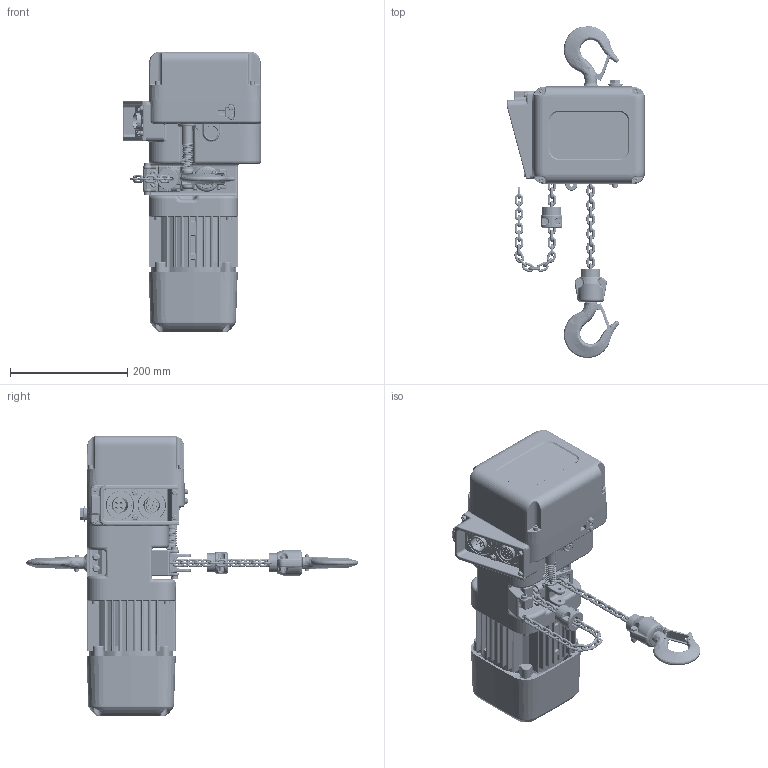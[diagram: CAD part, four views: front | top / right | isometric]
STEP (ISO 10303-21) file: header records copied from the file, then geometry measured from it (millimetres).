
FILE_DESCRIPTION (( 'STEP AP214' ), '1' );
FILE_NAME ('NER2003S.STEP', '2025-10-10T18:43:32', ( '' ), ( '' ), 'SwSTEP 2.0', 'SolidWorks 2025', '' );
FILE_SCHEMA (( 'AUTOMOTIVE_DESIGN' ));
Length unit declared in the file: millimetre
Products named in the file (46): J1BG10601212_B18.3.1M - 6 x 1.0 x 12 Hex SHCS -- 12CHX; J1NA001-20060_B18.2.4.1M - Hex nut, Style 1,  M6 x 1 --D-C; ER2BS9011; ER2BS9103; ER2BS2015; E3S111003; LCER2003NP; ER2BS9337; ER2CS9123; ER2BS9107; ES1045003; J1WS011-20060_Rectangular section spring washer BS 4464 - 16 (Type B); ER2BS9331; ES558003; ER2CS2523; NER2003S; ER2CS1002; LCER2003NP (SHAPED); E3S112003; ER2BS9053; MS561010; ER2CS1001; 9091234_B18.3.1M - 5 x 0.8 x 45 Hex SHCS -- 22CHX; ER2CS2564; J1BY9-0602525_B18.2.3.1M - Hex cap screw, M6 x 1.0 x 25 --25C; ER2BS9104_ER2BS9104; ER1BS9535; M6F554010; ER2CS9121; 9091251_9091251; ER2BS9105; J1BG10504022_J1BG10504022; ER2BS9015; ER1BS9135; 9012709_Rectangular section spring washer BS 4464 - 16 (Type B); ER2BS9101; ER2BS1011; ER2BHM03S9A31; ER2CS9511; 9091252_B18.3.1M - 6 x 1.0 x 30 Hex SHCS -- 30CHX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
Assembly tree (130 placements, depth 4):
  NER2003S
    ER2BS9104_ER2BS9104
    ER2BS9103
    ER2BS9101
    ER2BS9105
    ER2BS9107
    9091234_B18.3.1M - 5 x 0.8 x 45 Hex SHCS -- 22CHX  x4
    9091252_B18.3.1M - 6 x 1.0 x 30 Hex SHCS -- 30CHX  x4
    E3S111003  x2
    E3S112003  x2
    ER2CS1001
      ER2CS9001
      ER2CS1002
    ER2CS9121  x2
    ER2CS9186
    ER2CS9123
    J1BG10601212_B18.3.1M - 6 x 1.0 x 12 Hex SHCS -- 12CHX
    ER2BS9331
    ER2BS9338
    ER2BS9337
    ER2CS9357
    LCER2003NP
      LCER2003NP  x18
    ER2BS9053  x2
    9091251_9091251  x4
    9012709_Rectangular section spring washer BS 4464 - 16 (Type B)  x4
    ER2CS9511
    ER2CS2523
    ER2CS2564
    LCER2003NP (SHAPED)
      LCER2003NP  x31
    ER2BHM03S9A31
    ES1045003
    ER1BS9135
    ES558003  x8
    MS561010  x6
    ES127005S
    ER1BS9535
    M6F554010  x2
    ER2BS1011
      ER2BS9011
      ER2CS1002
      ER2BS2015
        ER2BS9015  x2
        J1BY9-0602525_B18.2.3.1M - Hex cap screw, M6 x 1.0 x 25 --25C  x2
        J1WS011-20060_Rectangular section spring washer BS 4464 - 16 (Type B)  x2
        J1NA001-20060_B18.2.4.1M - Hex nut, Style 1,  M6 x 1 --D-C  x2
    J1BG10504022_J1BG10504022  x4
Bounding box: 236 x 565.94 x 477.5 mm (x, y, z)
Volume: 7242906.6 mm3; surface area: 1014154.7 mm2
Topology: 146 solids, 146 shells, 5376 faces, 14482 edges, 9371 vertices
Faces by surface type: cylinder 1950, plane 1845, torus 757, bspline 403, cone 360, sphere 61
Entity records: 161204 total; most frequent: CARTESIAN_POINT 58915, ORIENTED_EDGE 21290, DIRECTION 20248, EDGE_CURVE 10645, AXIS2_PLACEMENT_3D 7489, VERTEX_POINT 7080, LINE 5270, VECTOR 5270
